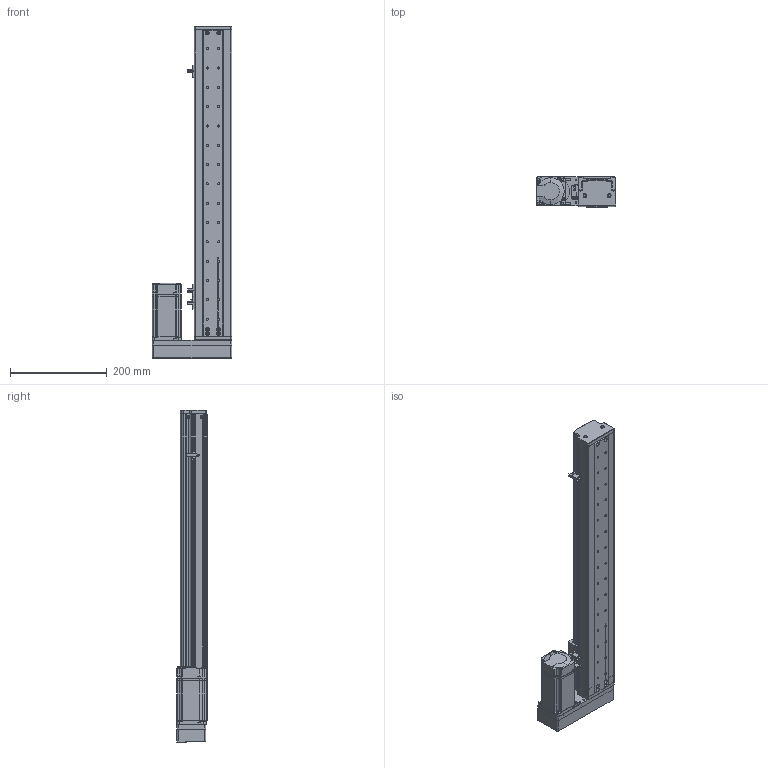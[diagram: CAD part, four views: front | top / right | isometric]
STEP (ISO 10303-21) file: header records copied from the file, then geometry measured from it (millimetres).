
FILE_DESCRIPTION (( 'STEP AP214' ), '1' );
FILE_NAME ('KSD75S-S480-MR-CM.STEP', '2019-10-18T07:19:26', ( '微软用户' ), ( '微软中国' ), 'SwSTEP 2.0', 'SolidWorks 2014', '' );
FILE_SCHEMA (( 'AUTOMOTIVE_DESIGN' ));
Length unit declared in the file: millimetre
Products named in the file (13): U倰嫖萇EEㄜSX672; 綴傷啣 ; ヶ傷啣; 75裔啣-480俴最; 75遵耀郪耜啣-480俴最; 75遵賑雄釱; MGW15H賑寢480俴最 ; 480俴最; KSD75S-S480-MR-CM; MHMD042G1CA_2_03; 75宽模组保护罩左右折; 75宽马达安装板连板左右折丝杆; 覜茼え100遵圉猾敕
Assembly tree (15 placements, depth 3):
  KSD75S-S480-MR-CM
    MGW15H賑寢480俴最 
      480俴最
    75遵賑雄釱
    75遵耀郪耜啣-480俴最  x2
    75裔啣-480俴最
    ヶ傷啣
    綴傷啣 
    U倰嫖萇EEㄜSX672  x3
    覜茼え100遵圉猾敕
    75宽马达安装板连板左右折丝杆
    75宽模组保护罩左右折
    MHMD042G1CA_2_03
Bounding box: 165 x 63 x 687.5 mm (x, y, z)
Volume: 909927.9 mm3; surface area: 572670.4 mm2
Topology: 13 solids, 14 shells, 1483 faces, 4186 edges, 2733 vertices
Faces by surface type: cylinder 707, plane 629, cone 129, bspline 18
Entity records: 47534 total; most frequent: CARTESIAN_POINT 9018, DIRECTION 7124, ORIENTED_EDGE 6652, EDGE_CURVE 3397, AXIS2_PLACEMENT_3D 2618, VERTEX_POINT 2251, LINE 1888, VECTOR 1888
